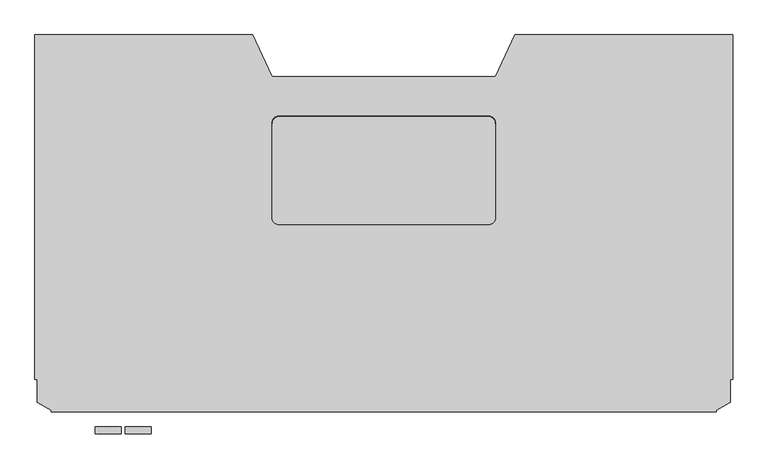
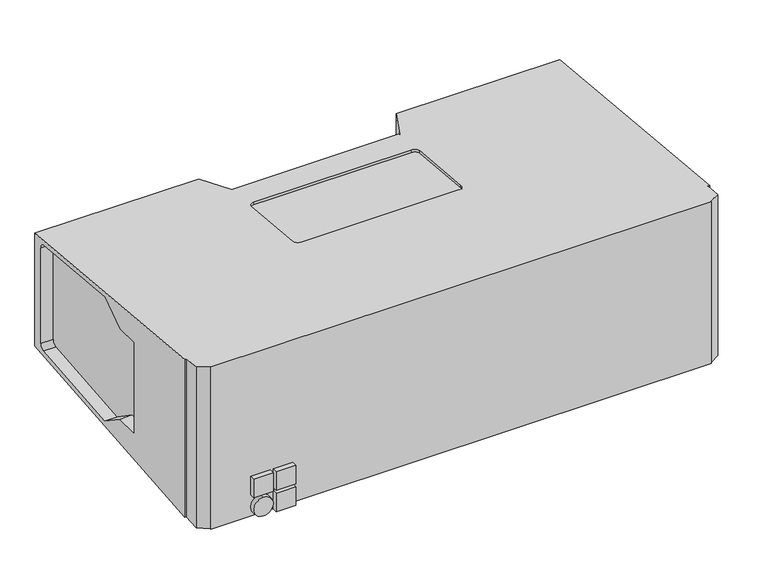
"""IFC4 building model written with IfcOpenShell, lengths in millimetres: proxy geometry, d&b SL-Series KSLi : KSLi12."""

from ifc_helpers import new_model, si_unit, point, frame, frame_2d, origin, place, context, project, spatial, polyline, circle_curve, trimmed, segment, composite_curve, outline, extrude, source, transform, mapped, element, save
from ifc_brep_helpers import plane_surface, revolved_surface, advanced_brep


def communication_devices_b4759670(model_context):
    return source(origin(), model_context, "Body", "SolidModel", [
        advanced_brep(
        [(976.4019238, 181.0406135, 106.4302485), (976.4019238, -20.6244027, 124.9606604), (976.4019238, -70.6244027, 91.0), (976.4019238, -115.6244027, 91.0), (976.4019238, -115.6244027, -91.0), (976.4019238, -70.6244027, -91.0), (976.4019238, -20.6244027, -124.9606604), (976.4019238, 181.0406135, -106.4302485), (976.4019238, 190.1255973, -96.4721993), (976.4019238, 190.1255973, 96.4721993), (1000.0, 210.1255973, 113.7998414), (1000.0, 210.1255973, -113.7998414), (687.9784595, 210.1255973, -113.7998414), (687.9784595, 210.1255973, 113.7998414), (0.0, 210.1255973, -113.7998414), (0.0, 210.1255973, 113.7998414), (312.0215405, 210.1255973, 113.7998414), (312.0215405, 210.1255973, -113.7998414), (1000.0, -283.8744027, -159.1920647), (1000.0, -283.8744027, 159.1920647), (1000.0, 181.0406135, 106.4302485), (1000.0, 190.1255973, 96.4721993), (1000.0, 190.1255973, -96.4721993), (1000.0, 181.0406135, -106.4302485), (1000.0, -20.6244027, -124.9606604), (1000.0, -70.6244027, -91.0), (1000.0, -115.6244027, -91.0), (1000.0, -115.6244027, 91.0), (1000.0, -70.6244027, 91.0), (1000.0, -20.6244027, 124.9606604), (997.0, -283.8744027, 159.1920647), (997.0, -283.8744027, -159.1920647), (23.5980762, -20.6244027, 124.9606604), (23.5980762, 181.0406135, 106.4302485), (23.5980762, 190.1255973, 96.4721993), (23.5980762, 190.1255973, -96.4721993), (23.5980762, 181.0406135, -106.4302485), (23.5980762, -20.6244027, -124.9606604), (23.5980762, -70.6244027, -91.0), (23.5980762, -115.6244027, -91.0), (23.5980762, -115.6244027, 91.0), (23.5980762, -70.6244027, 91.0), (0.0, -283.8744027, -159.1920647), (0.0, -283.8744027, 159.1920647), (0.0, 181.0406135, 106.4302485), (0.0, -20.6244027, 124.9606604), (0.0, -70.6244027, 91.0), (0.0, -115.6244027, 91.0), (0.0, -115.6244027, -91.0), (0.0, -70.6244027, -91.0), (0.0, -20.6244027, -124.9606604), (0.0, 181.0406135, -106.4302485), (0.0, 190.1255973, -96.4721993), (0.0, 190.1255973, 96.4721993), (3.0, -283.8744027, -159.1920647), (3.0, -283.8744027, 159.1920647), (3.0, -316.5566714, 162.1951433), (23.5, -328.3923519, 163.2826896), (23.5, -330.1244027, 163.4418427), (976.5, -330.1244027, 163.4418427), (976.5, -328.3923519, 163.2826896), (997.0, -316.5566714, 162.1951433), (660.0, 150.1255973, 119.3130669), (340.0, 150.1255973, 119.3130669), (660.0, -52.0828968, 137.8934174), (650.0, -62.0409461, 138.8084335), (350.0, -62.0409461, 138.8084335), (340.0, -52.0828968, 137.8934174), (340.0, 83.6315767, 125.4230091), (350.0, 93.589626, 124.5079929), (650.0, 93.589626, 124.5079929), (660.0, 83.6315767, 125.4230091), (23.5, -328.3923519, -163.2826896), (3.0, -316.5566714, -162.1951433), (340.0, 150.1255973, -119.3130669), (660.0, 150.1255973, -119.3130669), (997.0, -316.5566714, -162.1951433), (976.5, -328.3923519, -163.2826896), (976.5, -330.1244027, -163.4418427), (23.5, -330.1244027, -163.4418427), (363.0, 150.1255973, -28.2001586), (371.0, 150.1255973, -36.2001586), (415.0, 150.1255973, -36.2001586), (423.0, 150.1255973, -28.2001586), (423.0, 150.1255973, 85.7998414), (415.0, 150.1255973, 93.7998414), (371.0, 150.1255973, 93.7998414), (363.0, 150.1255973, 85.7998414), (650.0, -62.4984542, 133.8294089), (660.0, -52.5404049, 132.9143927), (660.0, 83.1740686, 120.4439844), (650.0, 93.1321179, 119.5289683), (350.0, 93.1321179, 119.5289683), (340.0, 83.1740686, 120.4439844), (340.0, -52.5404049, 132.9143927), (350.0, -62.4984542, 133.8294089), (373.0, 130.1255973, 83.7998414), (413.0, 130.1255973, 83.7998414), (413.0, 130.1255973, -26.2001586), (373.0, 130.1255973, -26.2001586), (373.0, 145.1255973, 83.7998414), (413.0, 145.1255973, 83.7998414), (413.0, 145.1255973, -26.2001586), (373.0, 145.1255973, -26.2001586), (363.0, 145.1255973, -28.2001586), (363.0, 145.1255973, 85.7998414), (371.0, 145.1255973, 93.7998414), (415.0, 145.1255973, 93.7998414), (423.0, 145.1255973, 85.7998414), (423.0, 145.1255973, -28.2001586), (415.0, 145.1255973, -36.2001586), (371.0, 145.1255973, -36.2001586)],
        [
            (0, 1),
            (1, 2),
            (2, 3),
            (3, 4),
            (4, 5),
            (5, 6),
            (6, 7),
            (7, 8, circle_curve(frame((976.4019238, 180.1255973, -96.4721993), z_axis=(1.0, 0.0, 0.0), x_axis=(0.0, 1.0, 0.0)), 10.0)),
            (8, 9),
            (9, 0, circle_curve(frame((976.4019238, 180.1255973, 96.4721993), z_axis=(1.0, 0.0, 0.0), x_axis=(0.0, 1.0, 0.0)), 10.0)),
            (10, 11),
            (11, 12),
            (12, 13),
            (13, 10),
            (14, 15),
            (15, 16),
            (16, 17),
            (17, 14),
            (18, 11),
            (10, 19),
            (19, 18),
            (20, 21, circle_curve(frame((1000.0, 180.1255973, 96.4721993), z_axis=(-1.0, 0.0, 0.0), x_axis=(0.0, 1.0, 0.0)), 10.0)),
            (21, 22),
            (22, 23, circle_curve(frame((1000.0, 180.1255973, -96.4721993), z_axis=(-1.0, 0.0, 0.0), x_axis=(0.0, 1.0, 0.0)), 10.0)),
            (23, 24),
            (24, 25),
            (25, 26),
            (26, 27),
            (27, 28),
            (28, 29),
            (29, 20),
            (19, 30),
            (30, 31),
            (31, 18),
            (29, 1),
            (0, 20),
            (28, 2),
            (27, 3),
            (25, 5),
            (4, 26),
            (24, 6),
            (23, 7),
            (22, 8),
            (21, 9),
            (32, 33),
            (33, 34, circle_curve(frame((23.5980762, 180.1255973, 96.4721993), z_axis=(-1.0, 0.0, 0.0), x_axis=(0.0, 1.0, 0.0)), 10.0)),
            (34, 35),
            (35, 36, circle_curve(frame((23.5980762, 180.1255973, -96.4721993), z_axis=(-1.0, 0.0, 0.0), x_axis=(0.0, 1.0, 0.0)), 10.0)),
            (36, 37),
            (37, 38),
            (38, 39),
            (39, 40),
            (40, 41),
            (41, 32),
            (42, 43),
            (43, 15),
            (14, 42),
            (44, 45),
            (45, 46),
            (46, 47),
            (47, 48),
            (48, 49),
            (49, 50),
            (50, 51),
            (51, 52, circle_curve(frame((0.0, 180.1255973, -96.4721993), z_axis=(1.0, 0.0, 0.0), x_axis=(0.0, 1.0, 0.0)), 10.0)),
            (52, 53),
            (53, 44, circle_curve(frame((0.0, 180.1255973, 96.4721993), z_axis=(1.0, 0.0, 0.0), x_axis=(0.0, 1.0, 0.0)), 10.0)),
            (42, 54),
            (54, 55),
            (55, 43),
            (44, 33),
            (32, 45),
            (41, 46),
            (40, 47),
            (48, 39),
            (38, 49),
            (37, 50),
            (36, 51),
            (35, 52),
            (34, 53),
            (56, 57),
            (57, 58),
            (58, 59),
            (59, 60),
            (60, 61),
            (61, 30),
            (13, 62),
            (62, 63),
            (63, 16),
            (55, 56),
            (64, 65, circle_curve(frame((650.0, -52.0828968, 137.8934174), z_axis=(0.0, -0.09150161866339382, -0.9958049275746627), x_axis=(0.0, -0.9958049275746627, 0.09150161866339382)), 10.0)),
            (65, 66),
            (66, 67, circle_curve(frame((350.0, -52.0828968, 137.8934174), z_axis=(0.0, -0.09150161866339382, -0.9958049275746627), x_axis=(0.0, -0.9958049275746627, 0.09150161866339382)), 10.0)),
            (67, 68),
            (68, 69, circle_curve(frame((350.0, 83.6315767, 125.4230091), z_axis=(0.0, -0.09150161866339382, -0.9958049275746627), x_axis=(0.0, -0.9958049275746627, 0.09150161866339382)), 10.0)),
            (69, 70),
            (70, 71, circle_curve(frame((650.0, 83.6315767, 125.4230091), z_axis=(0.0, -0.09150161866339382, -0.9958049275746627), x_axis=(0.0, -0.9958049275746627, 0.09150161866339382)), 10.0)),
            (71, 64),
            (72, 73),
            (73, 54),
            (17, 74),
            (74, 75),
            (75, 12),
            (31, 76),
            (76, 77),
            (77, 78),
            (78, 79),
            (79, 72),
            (56, 73),
            (72, 57),
            (79, 58),
            (78, 59),
            (77, 60),
            (76, 61),
            (63, 74),
            (62, 75),
            (80, 81, circle_curve(frame((371.0, 150.1255973, -28.2001586), z_axis=(0.0, -1.0, 0.0), x_axis=(-1.0, 0.0, 0.0)), 8.0)),
            (81, 82),
            (82, 83, circle_curve(frame((415.0, 150.1255973, -28.2001586), z_axis=(0.0, -1.0, 0.0), x_axis=(-1.0, 0.0, 0.0)), 8.0)),
            (83, 84),
            (84, 85, circle_curve(frame((415.0, 150.1255973, 85.7998414), z_axis=(0.0, -1.0, 0.0), x_axis=(-1.0, 0.0, 0.0)), 8.0)),
            (85, 86),
            (86, 87, circle_curve(frame((371.0, 150.1255973, 85.7998414), z_axis=(0.0, -1.0, 0.0), x_axis=(-1.0, 0.0, 0.0)), 8.0)),
            (87, 80),
            (88, 89, circle_curve(frame((650.0, -52.5404049, 132.9143927), z_axis=(0.0, 0.09150161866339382, 0.9958049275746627), x_axis=(0.0, -0.9958049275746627, 0.09150161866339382)), 10.0)),
            (89, 90),
            (90, 91, circle_curve(frame((650.0, 83.1740686, 120.4439844), z_axis=(0.0, 0.09150161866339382, 0.9958049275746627), x_axis=(0.0, -0.9958049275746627, 0.09150161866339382)), 10.0)),
            (91, 92),
            (92, 93, circle_curve(frame((350.0, 83.1740686, 120.4439844), z_axis=(0.0, 0.09150161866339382, 0.9958049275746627), x_axis=(0.0, -0.9958049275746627, 0.09150161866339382)), 10.0)),
            (93, 94),
            (94, 95, circle_curve(frame((350.0, -52.5404049, 132.9143927), z_axis=(0.0, 0.09150161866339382, 0.9958049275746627), x_axis=(0.0, -0.9958049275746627, 0.09150161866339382)), 10.0)),
            (95, 88),
            (88, 65),
            (64, 89),
            (71, 90),
            (70, 91),
            (69, 92),
            (68, 93),
            (67, 94),
            (66, 95),
            (96, 97),
            (97, 98),
            (98, 99),
            (99, 96),
            (96, 100),
            (100, 101),
            (101, 97),
            (101, 102),
            (102, 98),
            (102, 103),
            (103, 99),
            (103, 100),
            (104, 105),
            (105, 106, circle_curve(frame((371.0, 145.1255973, 85.7998414), z_axis=(0.0, 1.0, 0.0), x_axis=(-1.0, 0.0, 0.0)), 8.0)),
            (106, 107),
            (107, 108, circle_curve(frame((415.0, 145.1255973, 85.7998414), z_axis=(0.0, 1.0, 0.0), x_axis=(-1.0, 0.0, 0.0)), 8.0)),
            (108, 109),
            (109, 110, circle_curve(frame((415.0, 145.1255973, -28.2001586), z_axis=(0.0, 1.0, 0.0), x_axis=(-1.0, 0.0, 0.0)), 8.0)),
            (110, 111),
            (111, 104, circle_curve(frame((371.0, 145.1255973, -28.2001586), z_axis=(0.0, 1.0, 0.0), x_axis=(-1.0, 0.0, 0.0)), 8.0)),
            (111, 81),
            (80, 104),
            (110, 82),
            (109, 83),
            (108, 84),
            (107, 85),
            (106, 86),
            (105, 87),
        ],
        [
            plane_surface(frame((976.4019238, -283.8744027, 191.9850007), z_axis=(1.0, 0.0, 0.0), x_axis=(0.0, 0.0, -1.0))),
            plane_surface(frame((930.0, 210.1255973, 113.7998414), z_axis=(0.0, 1.0, 0.0), x_axis=(1.0, 0.0, 0.0))),
            plane_surface(frame((1000.0, -283.8744027, 191.9850007), z_axis=(1.0, 0.0, 0.0), x_axis=(0.0, 0.0, -1.0))),
            plane_surface(frame((976.4019238, -283.8744027, -159.1920647), z_axis=(0.0, -1.0, 0.0), x_axis=(1.0, 0.0, 0.0))),
            plane_surface(frame((976.4019238, 181.0406135, 106.4302485), z_axis=(0.0, -0.09150161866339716, -0.9958049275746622), x_axis=(1.0, 0.0, 0.0))),
            plane_surface(frame((976.4019238, -20.6244027, 124.9606604), z_axis=(0.0, 0.5618648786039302, -0.8272290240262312), x_axis=(1.0, 0.0, 0.0))),
            plane_surface(frame((976.4019238, -70.6244027, 91.0), z_axis=(0.0, 0.0, -1.0), x_axis=(1.0, 0.0, 0.0))),
            plane_surface(frame((976.4019238, -115.6244027, -91.0), z_axis=(0.0, 0.0, 1.0), x_axis=(1.0, 0.0, 0.0))),
            plane_surface(frame((976.4019238, -70.6244027, -91.0), z_axis=(0.0, 0.561864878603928, 0.8272290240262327), x_axis=(1.0, 0.0, 0.0))),
            plane_surface(frame((976.4019238, -20.6244027, -124.9606604), z_axis=(0.0, -0.09150161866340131, 0.9958049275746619), x_axis=(1.0, 0.0, 0.0))),
            revolved_surface(polyline([(1000.0, 190.1255973, -96.4721993), (976.4019238, 190.1255973, -96.4721993)]), (500.0, 180.1255973, -96.4721993), (1.0, 0.0, 0.0)),
            plane_surface(frame((976.4019238, 190.1255973, -96.4721993), z_axis=(0.0, -1.0, 0.0), x_axis=(1.0, 0.0, 0.0))),
            revolved_surface(polyline([(1000.0, 190.1255973, 96.4721993), (976.4019238, 190.1255973, 96.4721993)]), (500.0, 180.1255973, 96.4721993), (1.0, 0.0, 0.0)),
            plane_surface(frame((23.5980762, -538.4291723, -182.5823621), z_axis=(-1.0, 0.0, 0.0), x_axis=(0.0, -0.9958049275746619, -0.09150161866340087))),
            plane_surface(frame((0.0, -538.4291723, -182.5823621), z_axis=(-1.0, 0.0, 0.0), x_axis=(0.0, -0.9958049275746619, -0.09150161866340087))),
            plane_surface(frame((23.5980762, -283.8744027, 159.1920647), z_axis=(0.0, -1.0, 0.0), x_axis=(-1.0, 0.0, 0.0))),
            plane_surface(frame((23.5980762, -20.6244027, 124.9606604), z_axis=(0.0, -0.09150161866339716, -0.9958049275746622), x_axis=(-1.0, 0.0, 0.0))),
            plane_surface(frame((23.5980762, -70.6244027, 91.0), z_axis=(0.0, 0.5618648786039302, -0.8272290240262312), x_axis=(-1.0, 0.0, 0.0))),
            plane_surface(frame((23.5980762, -115.6244027, 91.0), z_axis=(0.0, 0.0, -1.0), x_axis=(-1.0, 0.0, 0.0))),
            plane_surface(frame((23.5980762, -70.6244027, -91.0), z_axis=(0.0, 0.0, 1.0), x_axis=(-1.0, 0.0, 0.0))),
            plane_surface(frame((23.5980762, -20.6244027, -124.9606604), z_axis=(0.0, 0.561864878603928, 0.8272290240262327), x_axis=(-1.0, 0.0, 0.0))),
            plane_surface(frame((23.5980762, 181.0406135, -106.4302485), z_axis=(0.0, -0.09150161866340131, 0.9958049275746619), x_axis=(-1.0, 0.0, 0.0))),
            revolved_surface(polyline([(0.0, 190.1255973, -96.4721993), (23.59807619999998, 190.1255973, -96.4721993)]), (500.0, 180.1255973, -96.4721993), (-1.0, 0.0, 0.0)),
            plane_surface(frame((23.5980762, 190.1255973, 96.4721993), z_axis=(0.0, -1.0, 0.0), x_axis=(-1.0, 0.0, 0.0))),
            revolved_surface(polyline([(0.0, 190.1255973, 96.4721993), (23.59807619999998, 190.1255973, 96.4721993)]), (500.0, 180.1255973, 96.4721993), (-1.0, 0.0, 0.0)),
            plane_surface(frame((1200.0, -336.6244027, 164.0391088), z_axis=(0.0, 0.09150161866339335, 0.9958049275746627), x_axis=(-1.0, 0.0, 0.0))),
            plane_surface(frame((1200.0, -271.6244027, -158.0664478), z_axis=(0.0, 0.09150161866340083, -0.9958049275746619), x_axis=(-1.0, 0.0, 0.0))),
            plane_surface(frame((3.0, -316.5566714, 200.0), z_axis=(-0.499999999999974, -0.8660254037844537, 0.0), x_axis=(0.0, 0.0, -1.0))),
            plane_surface(frame((23.5, -328.3923519, 200.0), z_axis=(-1.0, 0.0, 0.0), x_axis=(0.0, 0.0, -1.0))),
            plane_surface(frame((23.5, -330.1244027, 200.0), z_axis=(0.0, -1.0, 0.0), x_axis=(0.0, 0.0, -1.0))),
            plane_surface(frame((976.5, -330.1244027, 200.0), z_axis=(1.0, 0.0, 0.0), x_axis=(0.0, 0.0, -1.0))),
            plane_surface(frame((976.5, -328.3923519, 200.0), z_axis=(0.49999999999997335, -0.866025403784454, 0.0), x_axis=(0.0, 0.0, -1.0))),
            plane_surface(frame((997.0, -316.5566714, 200.0), z_axis=(1.0, 0.0, 0.0), x_axis=(0.0, 0.0, -1.0))),
            plane_surface(frame((3.0, -283.8744027, 200.0), z_axis=(-1.0, 0.0, 0.0), x_axis=(0.0, 0.0, -1.0))),
            plane_surface(frame((263.5255441, 314.1255973, 250.0), z_axis=(0.9063077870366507, 0.4226182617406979, 0.0), x_axis=(0.0, 0.0, -1.0))),
            plane_surface(frame((340.0, 150.1255973, 250.0), z_axis=(0.0, 1.0, 0.0), x_axis=(0.0, 0.0, -1.0))),
            plane_surface(frame((660.0, 150.1255973, 250.0), z_axis=(-0.9063077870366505, 0.4226182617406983, 0.0), x_axis=(0.0, 0.0, -1.0))),
            plane_surface(frame((650.0, -62.4984542, 133.8294089), z_axis=(0.0, 0.09150161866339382, 0.9958049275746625), x_axis=(-1.0, 0.0, 0.0))),
            revolved_surface(polyline([(650.0, -62.040946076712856, 138.80843358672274), (650.0, -62.49845417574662, 133.82940888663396)]), (650.0, -52.5404049, 132.9143927), (0.0, 0.09150161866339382, 0.9958049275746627)),
            plane_surface(frame((660.0, -52.0828968, 137.8934174), z_axis=(-1.0000000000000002, 0.0, 0.0), x_axis=(0.0, -0.09150161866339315, -0.9958049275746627))),
            revolved_surface(polyline([(650.0, 73.67352742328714, 126.33802528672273), (650.0, 73.21601932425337, 121.35900058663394)]), (650.0, 83.1740686, 120.4439844), (0.0, 0.09150161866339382, 0.9958049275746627)),
            plane_surface(frame((650.0, 93.589626, 124.5079929), z_axis=(0.0, -0.9958049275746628, 0.09150161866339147), x_axis=(0.0, -0.09150161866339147, -0.9958049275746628))),
            revolved_surface(polyline([(350.0, 73.67352742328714, 126.33802528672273), (350.0, 73.21601932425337, 121.35900058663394)]), (350.0, 83.1740686, 120.4439844), (0.0, 0.09150161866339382, 0.9958049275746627)),
            plane_surface(frame((340.0, 83.6315767, 125.4230091), z_axis=(1.0, 0.0, 0.0), x_axis=(0.0, -0.09150161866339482, -0.9958049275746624))),
            revolved_surface(polyline([(350.0, -62.040946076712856, 138.80843358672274), (350.0, -62.49845417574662, 133.82940888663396)]), (350.0, -52.5404049, 132.9143927), (0.0, 0.09150161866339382, 0.9958049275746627)),
            plane_surface(frame((350.0, -62.0409461, 138.8084335), z_axis=(0.0, 0.9958049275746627, -0.09150161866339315), x_axis=(0.0, -0.09150161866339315, -0.9958049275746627))),
            plane_surface(frame((976.4019238, -115.6244027, 91.0), z_axis=(0.0, 1.0, 0.0), x_axis=(1.0, 0.0, 0.0))),
            plane_surface(frame((23.5980762, -115.6244027, -91.0), z_axis=(0.0, 1.0, 0.0), x_axis=(-1.0, 0.0, 0.0))),
            plane_surface(frame((413.0, 130.1255973, 83.7998414), z_axis=(0.0, 1.0, 0.0), x_axis=(-1.0, 0.0, 0.0))),
            plane_surface(frame((373.0, 150.1255973, 83.7998414), z_axis=(0.0, 0.0, -1.0), x_axis=(0.0, -1.0, 0.0))),
            plane_surface(frame((413.0, 150.1255973, 83.7998414), z_axis=(-1.0, 0.0, 0.0), x_axis=(0.0, -1.0, 0.0))),
            plane_surface(frame((413.0, 150.1255973, -26.2001586), z_axis=(0.0, 0.0, 1.0), x_axis=(0.0, -1.0, 0.0))),
            plane_surface(frame((373.0, 150.1255973, -26.2001586), z_axis=(1.0, 0.0, 0.0), x_axis=(0.0, -1.0, 0.0))),
            plane_surface(frame((363.0, 145.1255973, 95.7998414), z_axis=(0.0, 1.0, 0.0), x_axis=(0.0, 0.0, -1.0))),
            revolved_surface(polyline([(363.0, 150.1255973, -28.2001586), (363.0, 145.1255973, -28.2001586)]), (371.0, 145.1255973, -28.2001586), (0.0, 1.0, 0.0)),
            plane_surface(frame((415.0, 150.1255973, -36.2001586), z_axis=(0.0, 0.0, 1.0), x_axis=(0.0, -1.0, 0.0))),
            revolved_surface(polyline([(407.0, 150.1255973, -28.2001586), (407.0, 145.1255973, -28.2001586)]), (415.0, 145.1255973, -28.2001586), (0.0, 1.0, 0.0)),
            plane_surface(frame((423.0, 150.1255973, 85.7998414), z_axis=(-1.0, 0.0, 0.0), x_axis=(0.0, -1.0, 0.0))),
            revolved_surface(polyline([(407.0, 150.1255973, 85.7998414), (407.0, 145.1255973, 85.7998414)]), (415.0, 145.1255973, 85.7998414), (0.0, 1.0, 0.0)),
            plane_surface(frame((371.0, 150.1255973, 93.7998414), z_axis=(0.0, 0.0, -1.0), x_axis=(0.0, -1.0, 0.0))),
            revolved_surface(polyline([(363.0, 150.1255973, 85.7998414), (363.0, 145.1255973, 85.7998414)]), (371.0, 145.1255973, 85.7998414), (0.0, 1.0, 0.0)),
            plane_surface(frame((363.0, 150.1255973, -28.2001586), z_axis=(1.0, 0.0, 0.0), x_axis=(0.0, -1.0, 0.0))),
        ],
        [
            (0, [[1, 2, 3, 4, 5, 6, 7, 8, 9, 10]]),
            (1, [[11, 12, 13, 14]]),
            (1, [[15, 16, 17, 18]]),
            (2, [[19, -11, 20, 21], [22, 23, 24, 25, 26, 27, 28, 29, 30, 31]]),
            (3, [[-21, 32, 33, 34]]),
            (4, [[-31, 35, -1, 36]]),
            (5, [[-30, 37, -2, -35]]),
            (6, [[-29, 38, -3, -37]]),
            (7, [[-27, 39, -5, 40]]),
            (8, [[-26, 41, -6, -39]]),
            (9, [[-25, 42, -7, -41]]),
            (10, [[-24, 43, -8, -42]]),
            (11, [[-23, 44, -9, -43]]),
            (12, [[-22, -36, -10, -44]]),
            (13, [[45, 46, 47, 48, 49, 50, 51, 52, 53, 54]]),
            (14, [[55, 56, -15, 57], [58, 59, 60, 61, 62, 63, 64, 65, 66, 67]]),
            (15, [[-55, 68, 69, 70]]),
            (16, [[-58, 71, -45, 72]]),
            (17, [[-59, -72, -54, 73]]),
            (18, [[-60, -73, -53, 74]]),
            (19, [[-62, 75, -51, 76]]),
            (20, [[-63, -76, -50, 77]]),
            (21, [[-64, -77, -49, 78]]),
            (22, [[-65, -78, -48, 79]]),
            (23, [[-66, -79, -47, 80]]),
            (24, [[-67, -80, -46, -71]]),
            (25, [[81, 82, 83, 84, 85, 86, -32, -20, -14, 87, 88, 89, -16, -56, -70, 90], [91, 92, 93, 94, 95, 96, 97, 98]]),
            (26, [[99, 100, -68, -57, -18, 101, 102, 103, -12, -19, -34, 104, 105, 106, 107, 108]]),
            (27, [[109, -99, 110, -81]]),
            (28, [[-110, -108, 111, -82]]),
            (29, [[-111, -107, 112, -83]]),
            (30, [[-112, -106, 113, -84]]),
            (31, [[-113, -105, 114, -85]]),
            (32, [[-114, -104, -33, -86]]),
            (33, [[-109, -90, -69, -100]]),
            (34, [[115, -101, -17, -89]]),
            (35, [[-115, -88, 116, -102], [117, 118, 119, 120, 121, 122, 123, 124]]),
            (36, [[-116, -87, -13, -103]]),
            (37, [[125, 126, 127, 128, 129, 130, 131, 132]]),
            (38, [[-125, 133, -91, 134]]),
            (39, [[-126, -134, -98, 135]]),
            (40, [[-127, -135, -97, 136]]),
            (41, [[-128, -136, -96, 137]]),
            (42, [[-129, -137, -95, 138]]),
            (43, [[-130, -138, -94, 139]]),
            (44, [[-131, -139, -93, 140]]),
            (45, [[-132, -140, -92, -133]]),
            (46, [[-28, -40, -4, -38]]),
            (47, [[-61, -74, -52, -75]]),
            (48, [[141, 142, 143, 144]]),
            (49, [[-141, 145, 146, 147]]),
            (50, [[-142, -147, 148, 149]]),
            (51, [[-143, -149, 150, 151]]),
            (52, [[-144, -151, 152, -145]]),
            (53, [[153, 154, 155, 156, 157, 158, 159, 160], [-146, -152, -150, -148]]),
            (54, [[-160, 161, -117, 162]]),
            (55, [[-159, 163, -118, -161]]),
            (56, [[-158, 164, -119, -163]]),
            (57, [[-157, 165, -120, -164]]),
            (58, [[-156, 166, -121, -165]]),
            (59, [[-155, 167, -122, -166]]),
            (60, [[-154, 168, -123, -167]]),
            (61, [[-153, -162, -124, -168]]),
        ],
    ),
        extrude(outline(polyline([(86.4761951, -351.6244027), (123.9761951, -351.6244027), (123.9761951, -361.6244027), (86.4761951, -361.6244027), (86.4761951, -351.6244027)])), frame((0.0, 0.0, -103.6029929), z_axis=(0.0, 0.0, 1.0), x_axis=(1.0, 0.0, 0.0)), (0.0, 0.0, 1.0), 37.5),
        extrude(outline(polyline([(129.333338, -351.6244027), (166.833338, -351.6244027), (166.833338, -361.6244027), (129.333338, -361.6244027), (129.333338, -351.6244027)])), frame((0.0, 0.0, -103.6029929), z_axis=(0.0, 0.0, 1.0), x_axis=(1.0, 0.0, 0.0)), (0.0, 0.0, 1.0), 37.5),
        extrude(outline(polyline([(129.333338, -351.6244027), (166.833338, -351.6244027), (166.833338, -361.6244027), (129.333338, -361.6244027), (129.333338, -351.6244027)])), frame((0.0, 0.0, -146.4601358), z_axis=(0.0, 0.0, 1.0), x_axis=(1.0, 0.0, 0.0)), (0.0, 0.0, 1.0), 37.5),
        extrude(outline(composite_curve([segment(trimmed(circle_curve(frame_2d((-127.7101358, 105.2261951)), 18.75), [point((-108.9601358, 105.2261951))], [point((-146.4601358, 105.2261951))], False, "CARTESIAN"), True, "CONTINUOUS"), segment(trimmed(circle_curve(frame_2d((-127.7101358, 105.2261951)), 18.75), [point((-146.4601358, 105.2261951))], [point((-108.9601358, 105.2261951))], False, "CARTESIAN"), True, "CONTINUOUS")], self_intersect=False)), frame((0.0, -361.6244027, 0.0), z_axis=(0.0, 1.0, 0.0), x_axis=(0.0, 0.0, 1.0)), (0.0, 0.0, 1.0), 10.0),
    ])


if __name__ == "__main__":
    model = new_model("IFC4")
    model_context = context("Model", 3, world=origin())
    ifc_project = project(units=[si_unit("LENGTHUNIT", "METRE", prefix="MILLI")], contexts=[model_context])
    site = spatial("IfcSite", under=ifc_project)
    building = spatial("IfcBuilding", under=site)
    placement = place(None, origin())
    communication_devices_shape = communication_devices_b4759670(model_context)
    element("IfcBuildingElementProxy", 1, Name="d&b SL-Series KSLi : KSLi12", ObjectType="d&b SL-Series KSLi : KSLi12", at=placement, inside=building, context=model_context, shape_type="MappedRepresentation", body=[
        mapped(communication_devices_shape, transform((0.0, 0.0, 0.0), x_axis=(1.0, 0.0, 0.0), y_axis=(0.0, 1.0, 0.0), z_axis=(0.0, 0.0, 1.0))),
    ])
    save(model, "model.ifc")
